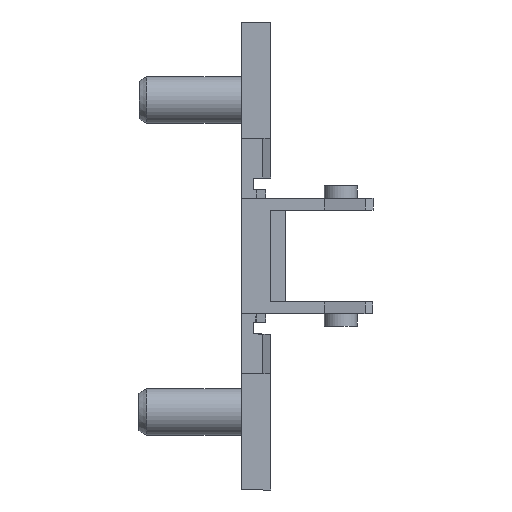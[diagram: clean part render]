
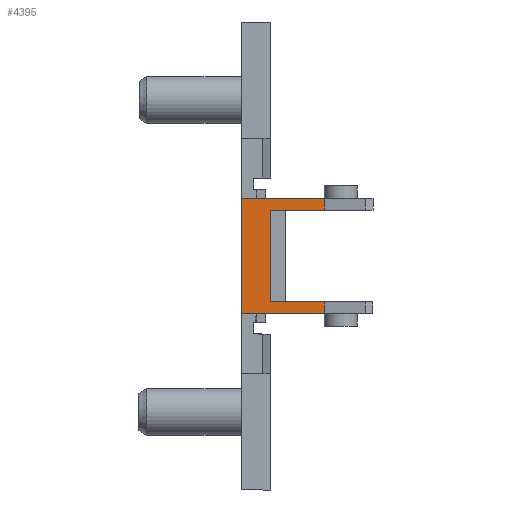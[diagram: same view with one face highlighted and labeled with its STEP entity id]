
A CAD part, front view. The second image highlights one B-rep face of the part: STEP entity #4395.
In plain terms, the highlighted planar face has unit normal (0, -1, 0).
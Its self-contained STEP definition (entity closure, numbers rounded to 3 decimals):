
#16 = AXIS2_PLACEMENT_3D ( 'NONE', #3775, #3778, #3779 ) ;
#31 = EDGE_CURVE ( 'NONE', #4529, #4537, #1627, .T. ) ;
#80 = EDGE_CURVE ( 'NONE', #4677, #4624, #1690, .T. ) ;
#168 = EDGE_CURVE ( 'NONE', #4529, #4624, #1774, .T. ) ;
#217 = EDGE_CURVE ( 'NONE', #4516, #4655, #3011, .T. ) ;
#440 = EDGE_CURVE ( 'NONE', #4677, #4516, #3250, .T. ) ;
#496 = EDGE_CURVE ( 'NONE', #4537, #4531, #3311, .T. ) ;
#562 = EDGE_CURVE ( 'NONE', #4655, #4544, #3384, .T. ) ;
#565 = EDGE_CURVE ( 'NONE', #4531, #4544, #3392, .T. ) ;
#1200 = ORIENTED_EDGE ( 'NONE', *, *, #496, .F. ) ;
#1201 = ORIENTED_EDGE ( 'NONE', *, *, #565, .F. ) ;
#1202 = ORIENTED_EDGE ( 'NONE', *, *, #562, .T. ) ;
#1203 = ORIENTED_EDGE ( 'NONE', *, *, #217, .T. ) ;
#1204 = ORIENTED_EDGE ( 'NONE', *, *, #440, .T. ) ;
#1205 = ORIENTED_EDGE ( 'NONE', *, *, #80, .F. ) ;
#1206 = ORIENTED_EDGE ( 'NONE', *, *, #168, .T. ) ;
#1207 = ORIENTED_EDGE ( 'NONE', *, *, #31, .F. ) ;
#1600 = EDGE_LOOP ( 'NONE', ( #1207, #1206, #1205, #1204, #1203, #1202, #1201, #1200 ) ) ;
#1627 = LINE ( 'NONE', #1818, #1637 ) ;
#1637 = VECTOR ( 'NONE', #1821, 1000. ) ;
#1690 = LINE ( 'NONE', #1895, #1691 ) ;
#1691 = VECTOR ( 'NONE', #1896, 1000. ) ;
#1774 = LINE ( 'NONE', #2000, #1782 ) ;
#1782 = VECTOR ( 'NONE', #2003, 1000. ) ;
#1818 = CARTESIAN_POINT ( 'NONE',  ( 3., -25.55, -5.9 ) ) ;
#1821 = DIRECTION ( 'NONE',  ( 0., 0., -1. ) ) ;
#1895 = CARTESIAN_POINT ( 'NONE',  ( 8.523, -25.55, 67.733 ) ) ;
#1896 = DIRECTION ( 'NONE',  ( 0., 0., -1. ) ) ;
#2000 = CARTESIAN_POINT ( 'NONE',  ( 13.5, -25.55, 4.7 ) ) ;
#2003 = DIRECTION ( 'NONE',  ( 1., 0., 0. ) ) ;
#2068 = CARTESIAN_POINT ( 'NONE',  ( 0., -25.55, 15.37 ) ) ;
#2069 = DIRECTION ( 'NONE',  ( 0., 0., -1. ) ) ;
#2415 = CARTESIAN_POINT ( 'NONE',  ( 13.5, -25.55, 5.9 ) ) ;
#2416 = DIRECTION ( 'NONE',  ( -1., 0., 0. ) ) ;
#2529 = CARTESIAN_POINT ( 'NONE',  ( 13.5, -25.55, -4.7 ) ) ;
#2530 = DIRECTION ( 'NONE',  ( 1., 0., 0. ) ) ;
#2601 = CARTESIAN_POINT ( 'NONE',  ( 1.5, -25.55, -5.9 ) ) ;
#2620 = DIRECTION ( 'NONE',  ( 1., 0., 0. ) ) ;
#2623 = CARTESIAN_POINT ( 'NONE',  ( 8.523, -25.55, 67.733 ) ) ;
#2624 = DIRECTION ( 'NONE',  ( 0., 0., -1. ) ) ;
#3011 = LINE ( 'NONE', #2068, #3012 ) ;
#3012 = VECTOR ( 'NONE', #2069, 1000. ) ;
#3250 = LINE ( 'NONE', #2415, #3251 ) ;
#3251 = VECTOR ( 'NONE', #2416, 1000. ) ;
#3307 = VECTOR ( 'NONE', #2530, 1000. ) ;
#3311 = LINE ( 'NONE', #2529, #3307 ) ;
#3384 = LINE ( 'NONE', #2601, #3388 ) ;
#3388 = VECTOR ( 'NONE', #2620, 1000. ) ;
#3392 = LINE ( 'NONE', #2623, #3393 ) ;
#3393 = VECTOR ( 'NONE', #2624, 1000. ) ;
#3592 = FACE_OUTER_BOUND ( 'NONE', #1600, .T. ) ;
#3775 = CARTESIAN_POINT ( 'NONE',  ( 13.5, -25.55, -5.9 ) ) ;
#3776 = PLANE ( 'NONE',  #16 ) ;
#3778 = DIRECTION ( 'NONE',  ( 0., -1., 0. ) ) ;
#3779 = DIRECTION ( 'NONE',  ( -1., 0., 0. ) ) ;
#4041 = CARTESIAN_POINT ( 'NONE',  ( 0., -25.55, 5.9 ) ) ;
#4054 = CARTESIAN_POINT ( 'NONE',  ( 3., -25.55, 4.7 ) ) ;
#4056 = CARTESIAN_POINT ( 'NONE',  ( 8.523, -25.55, -4.7 ) ) ;
#4062 = CARTESIAN_POINT ( 'NONE',  ( 3., -25.55, -4.7 ) ) ;
#4069 = CARTESIAN_POINT ( 'NONE',  ( 8.523, -25.55, -5.9 ) ) ;
#4147 = CARTESIAN_POINT ( 'NONE',  ( 8.523, -25.55, 4.7 ) ) ;
#4178 = CARTESIAN_POINT ( 'NONE',  ( 0., -25.55, -5.9 ) ) ;
#4200 = CARTESIAN_POINT ( 'NONE',  ( 8.523, -25.55, 5.9 ) ) ;
#4395 = ADVANCED_FACE ( 'NONE', ( #3592 ), #3776, .T. ) ;
#4516 = VERTEX_POINT ( 'NONE', #4041 ) ;
#4529 = VERTEX_POINT ( 'NONE', #4054 ) ;
#4531 = VERTEX_POINT ( 'NONE', #4056 ) ;
#4537 = VERTEX_POINT ( 'NONE', #4062 ) ;
#4544 = VERTEX_POINT ( 'NONE', #4069 ) ;
#4624 = VERTEX_POINT ( 'NONE', #4147 ) ;
#4655 = VERTEX_POINT ( 'NONE', #4178 ) ;
#4677 = VERTEX_POINT ( 'NONE', #4200 ) ;
